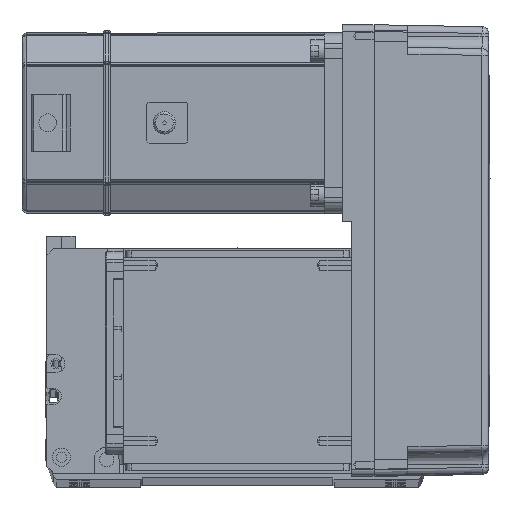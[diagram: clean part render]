
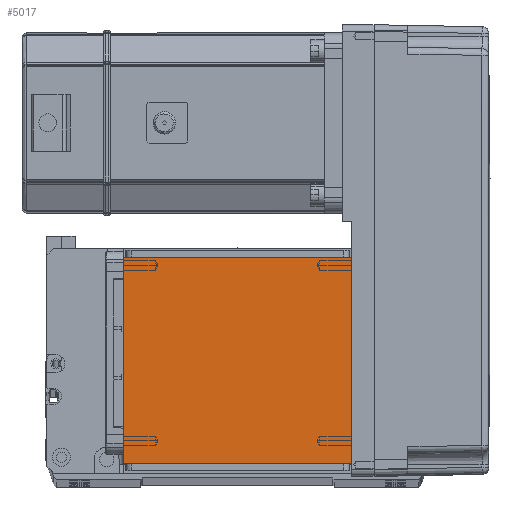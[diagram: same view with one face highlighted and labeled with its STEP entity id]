
A CAD part, top view. The second image highlights one B-rep face of the part: STEP entity #5017.
In plain terms, the highlighted planar face has unit normal (0, 0, 1).
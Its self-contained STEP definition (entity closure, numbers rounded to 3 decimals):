
#5017 = ADVANCED_FACE ( 'NONE', ( #36943 ), #44387, .T. ) ;
#8370 = ORIENTED_EDGE ( 'NONE', *, *, #22656, .F. ) ;
#12573 = VERTEX_POINT ( 'NONE', #53375 ) ;
#13028 = VERTEX_POINT ( 'NONE', #18202 ) ;
#18202 = CARTESIAN_POINT ( 'NONE',  ( -50.5, 20., 115. ) ) ;
#19888 = DIRECTION ( 'NONE',  ( -1., 0., 0. ) ) ;
#21329 = DIRECTION ( 'NONE',  ( 1., 0., 0. ) ) ;
#22656 = EDGE_CURVE ( 'NONE', #12573, #13028, #49909, .T. ) ;
#22920 = CARTESIAN_POINT ( 'NONE',  ( -50.5, 111.5, 115. ) ) ;
#24760 = VECTOR ( 'NONE', #19888, 1000. ) ;
#25986 = CARTESIAN_POINT ( 'NONE',  ( 0., 0., 115. ) ) ;
#27459 = VECTOR ( 'NONE', #41870, 1000. ) ;
#30569 = LINE ( 'NONE', #49640, #51209 ) ;
#30708 = CARTESIAN_POINT ( 'NONE',  ( -50.5, 122., 115. ) ) ;
#30782 = DIRECTION ( 'NONE',  ( 0., 0., 1. ) ) ;
#31167 = EDGE_CURVE ( 'NONE', #45005, #37161, #30569, .T. ) ;
#33478 = EDGE_CURVE ( 'NONE', #45005, #13028, #42918, .T. ) ;
#36943 = FACE_OUTER_BOUND ( 'NONE', #40711, .T. ) ;
#37161 = VERTEX_POINT ( 'NONE', #58791 ) ;
#39644 = DIRECTION ( 'NONE',  ( 1., 0., 0. ) ) ;
#40711 = EDGE_LOOP ( 'NONE', ( #56394, #52102, #8370, #58944 ) ) ;
#41870 = DIRECTION ( 'NONE',  ( 0., 1., 0. ) ) ;
#42918 = LINE ( 'NONE', #30708, #55329 ) ;
#44387 = PLANE ( 'NONE',  #61023 ) ;
#45005 = VERTEX_POINT ( 'NONE', #22920 ) ;
#46699 = LINE ( 'NONE', #60821, #27459 ) ;
#49640 = CARTESIAN_POINT ( 'NONE',  ( -70.004, 111.5, 115. ) ) ;
#49909 = LINE ( 'NONE', #52497, #24760 ) ;
#51209 = VECTOR ( 'NONE', #21329, 1000. ) ;
#52102 = ORIENTED_EDGE ( 'NONE', *, *, #33478, .T. ) ;
#52497 = CARTESIAN_POINT ( 'NONE',  ( -70.004, 20., 115. ) ) ;
#53375 = CARTESIAN_POINT ( 'NONE',  ( 50.5, 20., 115. ) ) ;
#54584 = DIRECTION ( 'NONE',  ( 0., -1., 0. ) ) ;
#55329 = VECTOR ( 'NONE', #54584, 1000. ) ;
#56325 = EDGE_CURVE ( 'NONE', #12573, #37161, #46699, .T. ) ;
#56394 = ORIENTED_EDGE ( 'NONE', *, *, #31167, .F. ) ;
#58791 = CARTESIAN_POINT ( 'NONE',  ( 50.5, 111.5, 115. ) ) ;
#58944 = ORIENTED_EDGE ( 'NONE', *, *, #56325, .T. ) ;
#60821 = CARTESIAN_POINT ( 'NONE',  ( 50.5, 122., 115. ) ) ;
#61023 = AXIS2_PLACEMENT_3D ( 'NONE', #25986, #30782, #39644 ) ;
